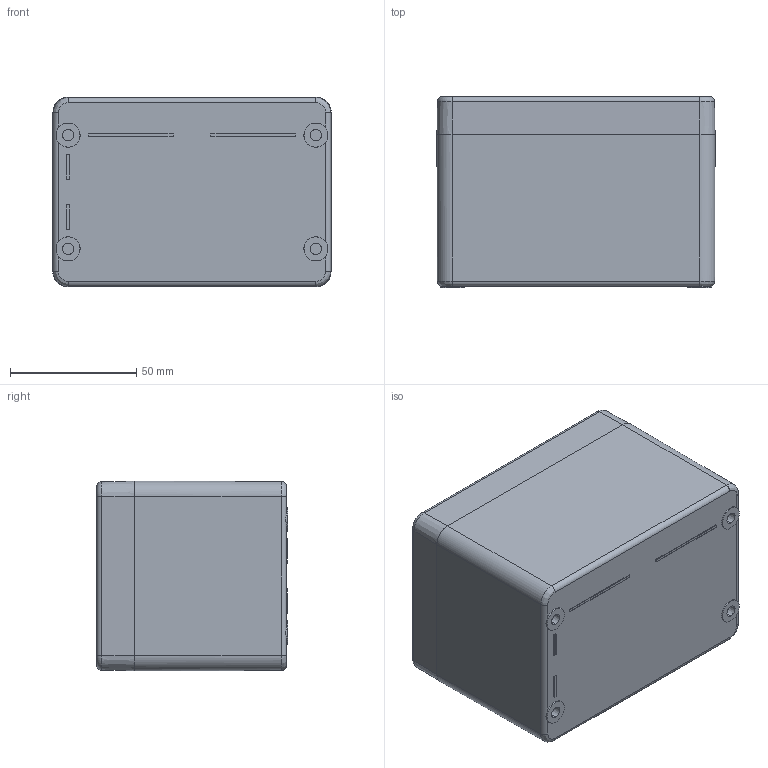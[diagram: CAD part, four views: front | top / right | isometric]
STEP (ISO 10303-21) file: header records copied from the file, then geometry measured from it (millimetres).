
FILE_DESCRIPTION((''),'2;1');
FILE_NAME('4154000050_ASM','2023-11-29T07:36:08',('silke.otte'),(''),'CREO PARAMETRIC BY PTC INC, 2022124','CREO PARAMETRIC BY PTC INC, 2022124','');
FILE_SCHEMA(('AUTOMOTIVE_DESIGN { 1 0 10303 214 1 1 1 1 }'));
Length unit declared in the file: millimetre
Products named in the file (15): 9331032000; EINPRESSMUTTER_M4; EINPRESSMUTTER_M4_AF0; EINPRESSMUTTER_M4_AF1; EINPRESSMUTTER_M4_AF2; EINPRESSMUTTER_M4_AF3; 9331032000_ASM; 9332002000; CP-DICHTUNG_35; 9614003200_ASM; 9262004000; 9261014000; 9258857000; 9258838000; 4154000050_ASM
Assembly tree (22 placements, depth 3):
  4154000050_ASM
    9331032000_ASM
      9331032000
      EINPRESSMUTTER_M4  x2
      EINPRESSMUTTER_M4_AF0
      EINPRESSMUTTER_M4_AF1
      EINPRESSMUTTER_M4_AF2
      EINPRESSMUTTER_M4_AF3
    9614003200_ASM
      9332002000
      CP-DICHTUNG_35
    9262004000  x4
    9261014000  x4
    9258857000  x2
    9258838000
Bounding box: 110 x 75.6 x 75 mm (x, y, z)
Volume: 192085.2 mm3; surface area: 103825.7 mm2
Topology: 20 solids, 30 shells, 713 faces, 5551 edges, 8598 vertices
Faces by surface type: plane 303, cone 184, cylinder 178, bspline 24, torus 24
Entity records: 42428 total; most frequent: CARTESIAN_POINT 8940, DIRECTION 5483, VECTOR 2709, LINE 2709, ORIENTED_EDGE 2366, TRIMMED_CURVE 2227, PRESENTATION_STYLE_ASSIGNMENT 1563, STYLED_ITEM 1542
